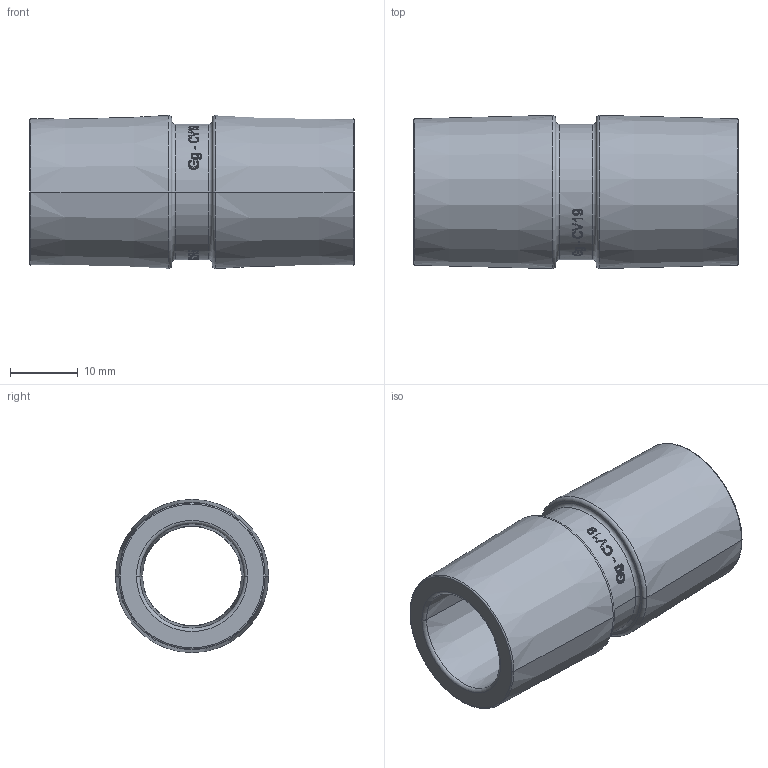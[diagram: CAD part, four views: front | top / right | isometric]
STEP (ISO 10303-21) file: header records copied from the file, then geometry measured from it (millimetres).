
FILE_DESCRIPTION(/* description */ (''),/* implementation_level */ '2;1');
FILE_NAME(/* name */ 'ISO 5356 M22 F15 - M22 F15_GgCV19.stp',/* time_stamp */ '2020-03-27T12:49:02+01:00',/* author */ (''),/* organization */ (''),/* preprocessor_version */ 'ST-DEVELOPER v16.7',/* originating_system */ 'SIEMENS PLM Software NX 12.0',/* authorisation */ '');
FILE_SCHEMA (('AUTOMOTIVE_DESIGN { 1 0 10303 214 3 1 1 1 }'));
Length unit declared in the file: millimetre
Products named in the file (1): ISO5356 - copia
Bounding box: 48 x 22.64 x 22.64 mm (x, y, z)
Volume: 9642.7 mm3; surface area: 6022.7 mm2
Topology: 1 solids, 1 shells, 207 faces, 522 edges, 341 vertices
Faces by surface type: plane 136, extrusion 36, torus 20, cone 8, cylinder 7
Entity records: 7795 total; most frequent: CARTESIAN_POINT 3294, ORIENTED_EDGE 1040, DIRECTION 690, EDGE_CURVE 520, VERTEX_POINT 340, B_SPLINE_CURVE_WITH_KNOTS 319, AXIS2_PLACEMENT_3D 245, EDGE_LOOP 234
